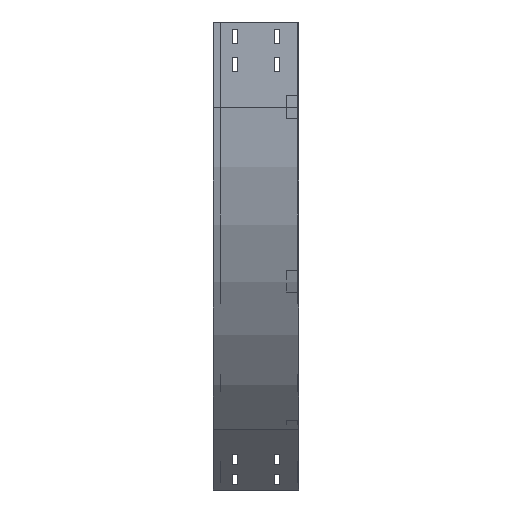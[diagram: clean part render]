
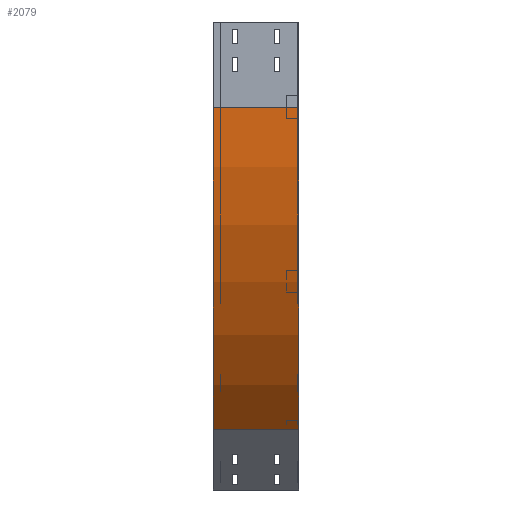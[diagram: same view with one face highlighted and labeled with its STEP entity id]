
A CAD part, left-side view. The second image highlights one B-rep face of the part: STEP entity #2079.
In plain terms, the highlighted cylindrical face has radius 800 mm (diameter 1600 mm), a partial arc.
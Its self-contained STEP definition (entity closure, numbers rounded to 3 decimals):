
#12 = CARTESIAN_POINT ( 'NONE',  ( 234.315, 0., -715.685 ) ) ;
#155 = CARTESIAN_POINT ( 'NONE',  ( 800., 0., -150. ) ) ;
#180 = AXIS2_PLACEMENT_3D ( 'NONE', #3049, #1882, #420 ) ;
#369 = DIRECTION ( 'NONE',  ( -1., 0., 0. ) ) ;
#418 = AXIS2_PLACEMENT_3D ( 'NONE', #2562, #1121, #3141 ) ;
#420 = DIRECTION ( 'NONE',  ( -1., 0., 0. ) ) ;
#532 = VERTEX_POINT ( 'NONE', #3804 ) ;
#624 = EDGE_CURVE ( 'NONE', #1723, #532, #3058, .T. ) ;
#642 = EDGE_CURVE ( 'NONE', #532, #2642, #2069, .T. ) ;
#974 = DIRECTION ( 'NONE',  ( 0., -1., 0. ) ) ;
#990 = CIRCLE ( 'NONE', #180, 800. ) ;
#1020 = CARTESIAN_POINT ( 'NONE',  ( 234.315, 0., -715.685 ) ) ;
#1121 = DIRECTION ( 'NONE',  ( 0., -1., 0. ) ) ;
#1307 = CARTESIAN_POINT ( 'NONE',  ( 234.315, 150., -715.685 ) ) ;
#1449 = AXIS2_PLACEMENT_3D ( 'NONE', #155, #1907, #369 ) ;
#1598 = EDGE_CURVE ( 'NONE', #1723, #2352, #990, .T. ) ;
#1723 = VERTEX_POINT ( 'NONE', #2020 ) ;
#1845 = ORIENTED_EDGE ( 'NONE', *, *, #3269, .T. ) ;
#1882 = DIRECTION ( 'NONE',  ( 0., -1., 0. ) ) ;
#1907 = DIRECTION ( 'NONE',  ( 0., -1., 0. ) ) ;
#2020 = CARTESIAN_POINT ( 'NONE',  ( 0., 150., -150. ) ) ;
#2069 = CIRCLE ( 'NONE', #1449, 800. ) ;
#2079 = ADVANCED_FACE ( 'NONE', ( #2331 ), #2310, .T. ) ;
#2206 = ORIENTED_EDGE ( 'NONE', *, *, #1598, .T. ) ;
#2310 = CYLINDRICAL_SURFACE ( 'NONE', #418, 800. ) ;
#2321 = ORIENTED_EDGE ( 'NONE', *, *, #642, .F. ) ;
#2331 = FACE_OUTER_BOUND ( 'NONE', #2492, .T. ) ;
#2352 = VERTEX_POINT ( 'NONE', #1307 ) ;
#2380 = ORIENTED_EDGE ( 'NONE', *, *, #624, .F. ) ;
#2455 = CARTESIAN_POINT ( 'NONE',  ( 0., 0., -150. ) ) ;
#2492 = EDGE_LOOP ( 'NONE', ( #2321, #2380, #2206, #1845 ) ) ;
#2562 = CARTESIAN_POINT ( 'NONE',  ( 800., 0., -150. ) ) ;
#2642 = VERTEX_POINT ( 'NONE', #12 ) ;
#2826 = DIRECTION ( 'NONE',  ( 0., -1., 0. ) ) ;
#3049 = CARTESIAN_POINT ( 'NONE',  ( 800., 150., -150. ) ) ;
#3058 = LINE ( 'NONE', #2455, #3746 ) ;
#3141 = DIRECTION ( 'NONE',  ( 0., 0., -1. ) ) ;
#3269 = EDGE_CURVE ( 'NONE', #2352, #2642, #3680, .T. ) ;
#3509 = VECTOR ( 'NONE', #2826, 1000. ) ;
#3680 = LINE ( 'NONE', #1020, #3509 ) ;
#3746 = VECTOR ( 'NONE', #974, 1000. ) ;
#3804 = CARTESIAN_POINT ( 'NONE',  ( 0., 0., -150. ) ) ;
